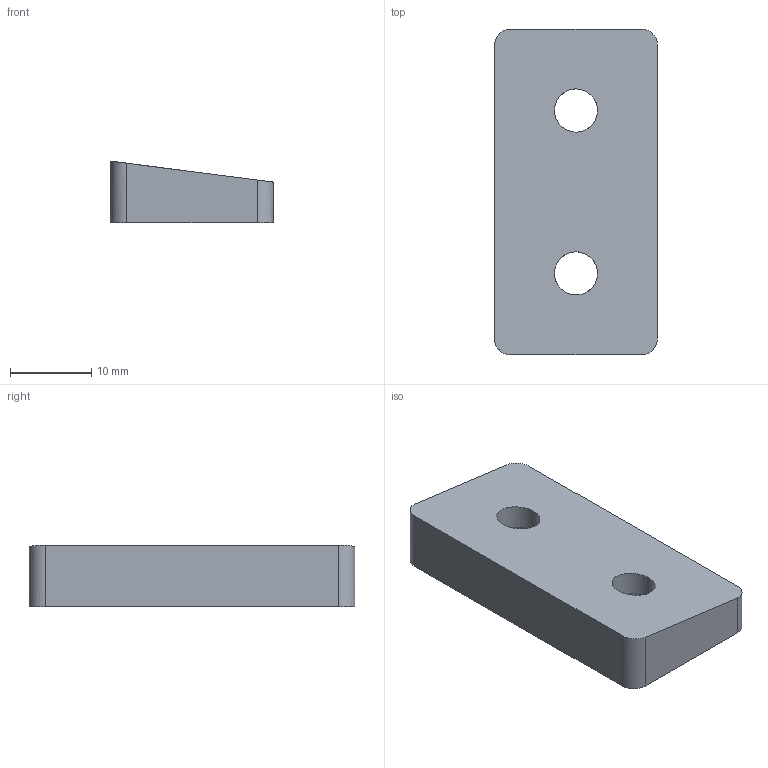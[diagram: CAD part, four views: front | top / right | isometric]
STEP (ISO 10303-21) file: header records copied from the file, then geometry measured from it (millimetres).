
FILE_DESCRIPTION((''),'2;1');
FILE_NAME('0000203573','2024-02-16T16:47:05',('Wyndorps'),(''),'CREO PARAMETRIC BY PTC INC, 2022484','CREO PARAMETRIC BY PTC INC, 2022484','');
FILE_SCHEMA(('CONFIG_CONTROL_DESIGN'));
Length unit declared in the file: millimetre
Products named in the file (1): 0000203573
Bounding box: 20 x 40 x 7.58 mm (x, y, z)
Volume: 4188.4 mm3; surface area: 2580.5 mm2
Topology: 1 solids, 1 shells, 20 faces, 48 edges, 32 vertices
Faces by surface type: cylinder 12, plane 8
Entity records: 680 total; most frequent: CARTESIAN_POINT 162, DIRECTION 96, ORIENTED_EDGE 96, EDGE_CURVE 48, AXIS2_PLACEMENT_3D 36, VERTEX_POINT 32, EDGE_LOOP 26, VECTOR 24
